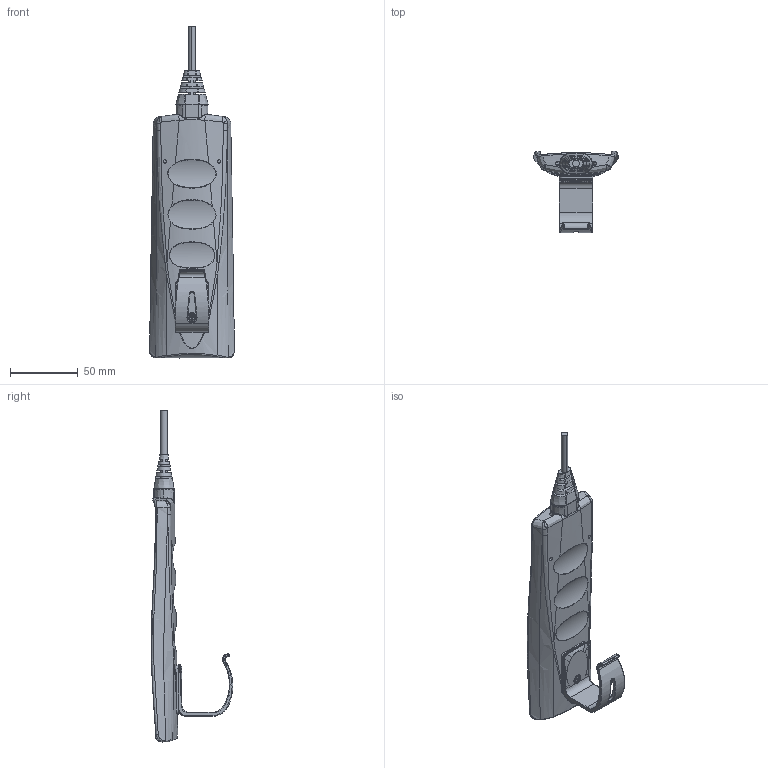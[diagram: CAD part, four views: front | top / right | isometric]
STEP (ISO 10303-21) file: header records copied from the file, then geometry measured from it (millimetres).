
FILE_DESCRIPTION((''),'2;1');
FILE_NAME('H3T-M','2016-08-19T',('user'),(''),'PRO/ENGINEER BY PARAMETRIC TECHNOLOGY CORPORATION, 2008090','PRO/ENGINEER BY PARAMETRIC TECHNOLOGY CORPORATION, 2008090','');
FILE_SCHEMA(('CONFIG_CONTROL_DESIGN'));
Products named in the file (1): H3T-M
Bounding box: 62.48 x 60.15 x 244.9 mm (x, y, z)
Surface area: 70926.8 mm2 (no closed solid volume)
Topology: 0 solids, 36 shells, 2262 faces, 6087 edges, 3953 vertices
Faces by surface type: plane 961, cylinder 596, bspline 350, torus 206, cone 119, extrusion 24, sphere 6
Entity records: 94098 total; most frequent: CARTESIAN_POINT 40459, ORIENTED_EDGE 12166, DIRECTION 9945, EDGE_CURVE 6083, VERTEX_POINT 3953, AXIS2_PLACEMENT_3D 3707, VECTOR 2531, LINE 2507
